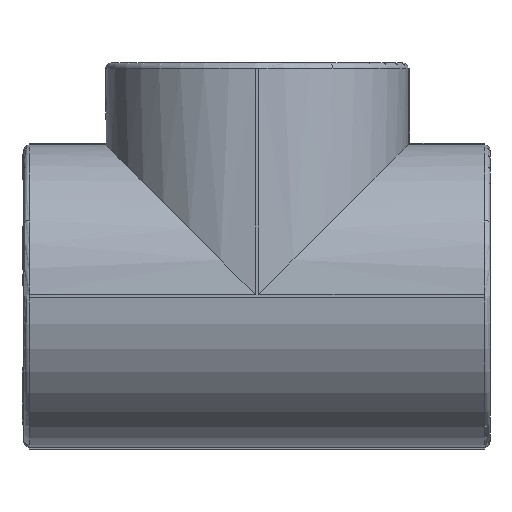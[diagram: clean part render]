
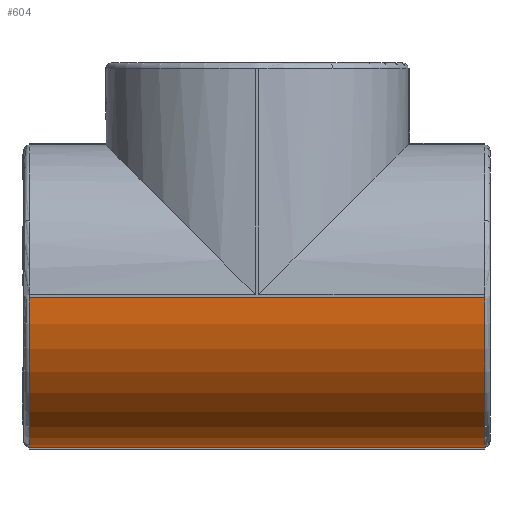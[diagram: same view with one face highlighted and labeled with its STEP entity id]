
A CAD part, left-side view. The second image highlights one B-rep face of the part: STEP entity #604.
In plain terms, the highlighted cylindrical face has radius 41.5 mm (diameter 83 mm), a partial arc.
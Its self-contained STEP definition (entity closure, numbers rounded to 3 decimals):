
#604=ADVANCED_FACE('',(#4712),#4714,.T.);
#4712=FACE_BOUND('',#4713,.T.);
#4713=EDGE_LOOP('',(#12196,#12197,#12198,#12199));
#4714=CYLINDRICAL_SURFACE('',#4715,41.5);
#4715=AXIS2_PLACEMENT_3D('',#4716,#4717,#4718);
#4716=CARTESIAN_POINT('',(0.,-64.,0.));
#4717=DIRECTION('',(0.,1.,0.));
#4718=DIRECTION('',(-1.,0.,0.));
#12196=ORIENTED_EDGE('',*,*,#17483,.F.);
#12197=ORIENTED_EDGE('',*,*,#17484,.T.);
#12198=ORIENTED_EDGE('',*,*,#17485,.F.);
#12199=ORIENTED_EDGE('',*,*,#17458,.F.);
#17458=EDGE_CURVE('',#21462,#21464,#21465,.T.);
#17483=EDGE_CURVE('',#21507,#21462,#21508,.T.);
#17484=EDGE_CURVE('',#21507,#21509,#21510,.T.);
#17485=EDGE_CURVE('',#21464,#21509,#21511,.F.);
#21462=VERTEX_POINT('',#29505);
#21464=VERTEX_POINT('',#29510);
#21465=CIRCLE('',#29511,41.5);
#21507=VERTEX_POINT('',#29613);
#21508=LINE('',#29614,#29615);
#21509=VERTEX_POINT('',#29617);
#21510=CIRCLE('',#29618,41.5);
#21511=LINE('',#29622,#29623);
#29505=CARTESIAN_POINT('',(-0.5,62.5,-41.497));
#29510=CARTESIAN_POINT('',(-41.497,62.5,-0.5));
#29511=AXIS2_PLACEMENT_3D('',#29512,#29513,#29514);
#29512=CARTESIAN_POINT('',(0.,62.5,0.));
#29513=DIRECTION('',(0.,1.,0.));
#29514=DIRECTION('',(-0.012,0.,-1.));
#29613=CARTESIAN_POINT('',(-0.5,-62.5,-41.497));
#29614=CARTESIAN_POINT('',(-0.5,-62.5,-41.497));
#29615=VECTOR('',#29616,1.);
#29616=DIRECTION('',(0.,1.,0.));
#29617=CARTESIAN_POINT('',(-41.497,-62.5,-0.5));
#29618=AXIS2_PLACEMENT_3D('',#29619,#29620,#29621);
#29619=CARTESIAN_POINT('',(0.,-62.5,0.));
#29620=DIRECTION('',(0.,1.,0.));
#29621=DIRECTION('',(-0.012,0.,-1.));
#29622=CARTESIAN_POINT('',(-41.497,-62.5,-0.5));
#29623=VECTOR('',#29624,1.);
#29624=DIRECTION('',(0.,1.,0.));
